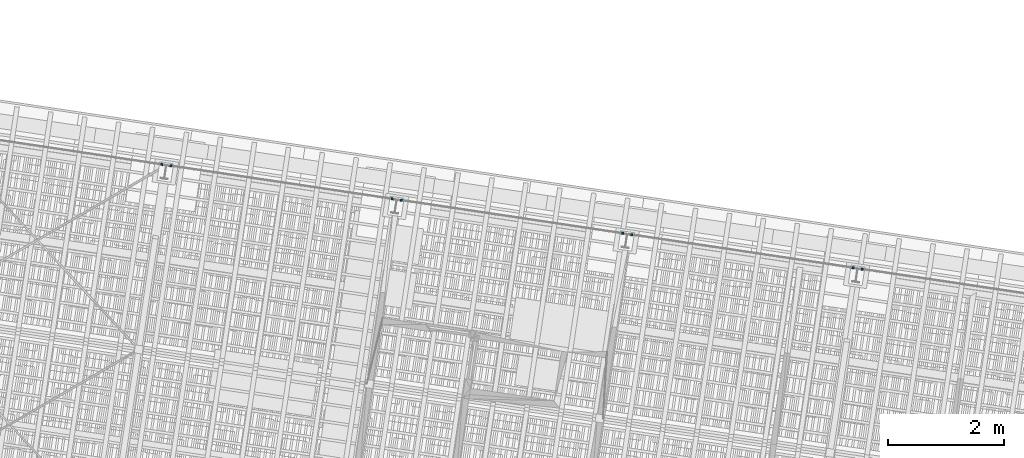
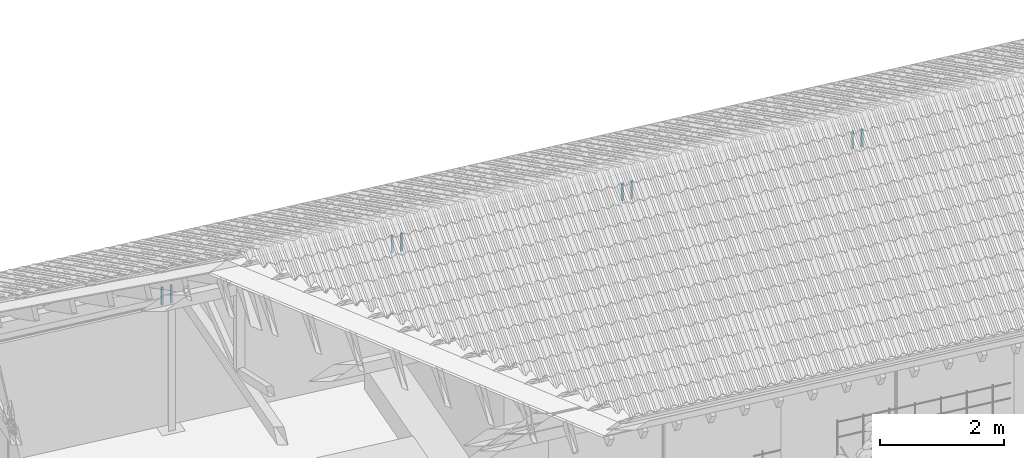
# One storey, part 112 of 128: 8 members.
"""IFC4 building model written with IfcOpenShell, lengths in metres."""

from ifc_helpers import new_model, si_unit, direction, frame, origin_with_axes, place, context, subcontext, project, spatial, rectangle, extrude, material, material_profile, profile_set, profile_usage, type_object, element, save


model = new_model("IFC4")

# Units and contexts
model_context = context("Model", 3, precision=1e-05, world=origin_with_axes(), true_north=direction((0.0, 1.0)))
body_context = subcontext(model_context, "Body", "Model", "MODEL_VIEW")
ifc_project = project(units=[si_unit("VOLUMEUNIT", "CUBIC_METRE"), si_unit("LENGTHUNIT", "METRE"), si_unit("AREAUNIT", "SQUARE_METRE")], contexts=[model_context])

# Site, building, storey
site_placement = place(None, origin_with_axes())
site = spatial("IfcSite", under=ifc_project, at=site_placement, Name="Lares · Rua das Mercês · artigo 4771")
building_placement = place(site_placement, frame((15.0, 9.7, 13.9), z_axis=(0.0, 0.0, 1.0), x_axis=(0.989015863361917, -0.147809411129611, 0.0)))
building = spatial("IfcBuilding", under=site, at=building_placement, Name="Casa Sobreposta")
storey_placement = place(building_placement, origin_with_axes())
storey = spatial("IfcBuildingStorey", under=building, at=storey_placement, Name="00 · Habitação e estacionamento", Elevation=13.9)

# Members
ifc_material = material(Name="Aço pintado / Stahl lackiert", Category="steel")
ifc_material_profile = material_profile(ifc_material, rectangle(XDim=0.035, YDim=0.035))
ifc_profile_set = profile_set([ifc_material_profile], Name="R0.035")
ifc_profile_usage_1 = profile_usage(ifc_profile_set)
member_type = type_object("IfcMemberType", Name="R0.035 / steel", PredefinedType="NOTDEFINED", material=ifc_profile_set)
member_1_placement = place(storey_placement, frame((3.92, 6.4, 2.35), z_axis=(0.0, 0.0, 1.0), x_axis=(1.0, 0.0, 0.0)))
element("IfcMember", 1, at=member_1_placement, inside=storey, type_object=member_type, material=ifc_profile_usage_1, Name="Rasgo norte 1 · montante", context=body_context, shape_type="SweptSolid", body=[
    extrude(rectangle(XDim=0.035, YDim=0.035), origin_with_axes(), (0.0, 0.0, 1.0), 0.35),
])
ifc_profile_usage_2 = profile_usage(ifc_profile_set)
member_2_placement = place(storey_placement, frame((4.08, 6.4, 2.35), z_axis=(0.0, 0.0, 1.0), x_axis=(1.0, 0.0, 0.0)))
element("IfcMember", 2, at=member_2_placement, inside=storey, type_object=member_type, material=ifc_profile_usage_2, Name="Rasgo norte 2 · montante", context=body_context, shape_type="SweptSolid", body=[
    extrude(rectangle(XDim=0.035, YDim=0.035), origin_with_axes(), (0.0, 0.0, 1.0), 0.35),
])
ifc_profile_usage_3 = profile_usage(ifc_profile_set)
member_3_placement = place(storey_placement, frame((7.92, 6.4, 2.35), z_axis=(0.0, 0.0, 1.0), x_axis=(1.0, 0.0, 0.0)))
element("IfcMember", 3, at=member_3_placement, inside=storey, type_object=member_type, material=ifc_profile_usage_3, Name="Rasgo norte 2 · montante", context=body_context, shape_type="SweptSolid", body=[
    extrude(rectangle(XDim=0.035, YDim=0.035), origin_with_axes(), (0.0, 0.0, 1.0), 0.35),
])
ifc_profile_usage_4 = profile_usage(ifc_profile_set)
member_4_placement = place(storey_placement, frame((8.08, 6.4, 2.35), z_axis=(0.0, 0.0, 1.0), x_axis=(1.0, 0.0, 0.0)))
element("IfcMember", 4, at=member_4_placement, inside=storey, type_object=member_type, material=ifc_profile_usage_4, Name="Rasgo norte 3 · montante", context=body_context, shape_type="SweptSolid", body=[
    extrude(rectangle(XDim=0.035, YDim=0.035), origin_with_axes(), (0.0, 0.0, 1.0), 0.35),
])
ifc_profile_usage_5 = profile_usage(ifc_profile_set)
member_5_placement = place(storey_placement, frame((11.92, 6.4, 2.35), z_axis=(0.0, 0.0, 1.0), x_axis=(1.0, 0.0, 0.0)))
element("IfcMember", 5, at=member_5_placement, inside=storey, type_object=member_type, material=ifc_profile_usage_5, Name="Rasgo norte 3 · montante", context=body_context, shape_type="SweptSolid", body=[
    extrude(rectangle(XDim=0.035, YDim=0.035), origin_with_axes(), (0.0, 0.0, 1.0), 0.35),
])
ifc_profile_usage_6 = profile_usage(ifc_profile_set)
member_6_placement = place(storey_placement, frame((12.08, 6.4, 2.35), z_axis=(0.0, 0.0, 1.0), x_axis=(1.0, 0.0, 0.0)))
element("IfcMember", 6, at=member_6_placement, inside=storey, type_object=member_type, material=ifc_profile_usage_6, Name="Rasgo norte 4 · montante", context=body_context, shape_type="SweptSolid", body=[
    extrude(rectangle(XDim=0.035, YDim=0.035), origin_with_axes(), (0.0, 0.0, 1.0), 0.35),
])
ifc_profile_usage_7 = profile_usage(ifc_profile_set)
member_7_placement = place(storey_placement, frame((15.92, 6.4, 2.35), z_axis=(0.0, 0.0, 1.0), x_axis=(1.0, 0.0, 0.0)))
element("IfcMember", 7, at=member_7_placement, inside=storey, type_object=member_type, material=ifc_profile_usage_7, Name="Rasgo norte 4 · montante", context=body_context, shape_type="SweptSolid", body=[
    extrude(rectangle(XDim=0.035, YDim=0.035), origin_with_axes(), (0.0, 0.0, 1.0), 0.35),
])
ifc_profile_usage_8 = profile_usage(ifc_profile_set)
member_8_placement = place(storey_placement, frame((16.08, 6.4, 2.35), z_axis=(0.0, 0.0, 1.0), x_axis=(1.0, 0.0, 0.0)))
element("IfcMember", 8, at=member_8_placement, inside=storey, type_object=member_type, material=ifc_profile_usage_8, Name="Rasgo norte 5 · montante", context=body_context, shape_type="SweptSolid", body=[
    extrude(rectangle(XDim=0.035, YDim=0.035), origin_with_axes(), (0.0, 0.0, 1.0), 0.35),
])

save(model, "model.ifc")
